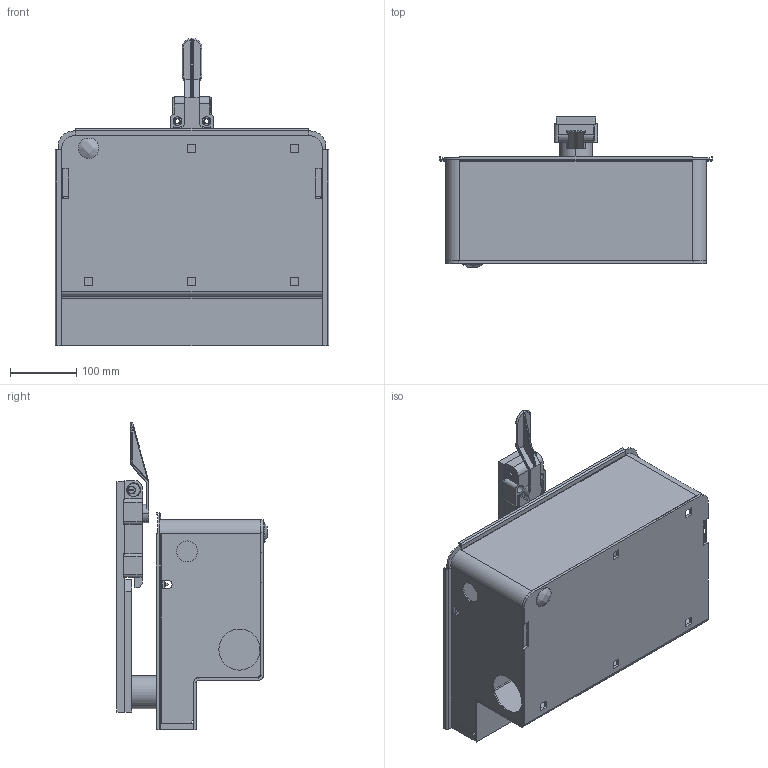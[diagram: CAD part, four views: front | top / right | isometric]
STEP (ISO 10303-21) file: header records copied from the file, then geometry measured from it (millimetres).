
FILE_DESCRIPTION (( 'STEP AP214' ), '1' );
FILE_NAME ('Twist_UG_2018-03-05.STEP', '2018-03-05T13:51:40', ( '' ), ( '' ), 'SwSTEP 2.0', 'SolidWorks 2017', '' );
FILE_SCHEMA (( 'AUTOMOTIVE_DESIGN' ));
Length unit declared in the file: millimetre
Products named in the file (15): 603A21240_Schlossschraube; Unterflurgehäuse_Deckel; Unterflurgehäuse_Aufnahme; Unterflurgehäuse_Wandblech_20140429; Unterflurgehäuse_Bodenblech_20140429; Twist_UG_2018-03-05; ZylinderTeil1_Jive; Zylinder_Jive; Toraufnahme1_Jive; Notentriegelung-Hebel_Jive; Notentriegelung-Gussteil_Jive; Notentriegelung-Grundplatte_Jive; Abdeckung; Wandverstärkung_hinten; Blechschraube_7982A26,316
Assembly tree (15 placements, depth 2):
  Twist_UG_2018-03-05
    Unterflurgehäuse_Bodenblech_20140429
    Unterflurgehäuse_Wandblech_20140429
    Unterflurgehäuse_Aufnahme
    Unterflurgehäuse_Deckel
    603A21240_Schlossschraube
    Blechschraube_7982A26,316  x2
    Wandverstärkung_hinten
    Abdeckung
    Notentriegelung-Grundplatte_Jive
    Notentriegelung-Gussteil_Jive
    Notentriegelung-Hebel_Jive
    Toraufnahme1_Jive
    Zylinder_Jive
    ZylinderTeil1_Jive
Bounding box: 413 x 226.25 x 463.88 mm (x, y, z)
Volume: 2223676.3 mm3; surface area: 1128061.6 mm2
Topology: 15 solids, 15 shells, 509 faces, 1253 edges, 783 vertices
Faces by surface type: plane 303, cylinder 157, cone 38, torus 10, bspline 1
Entity records: 15282 total; most frequent: CARTESIAN_POINT 2651, DIRECTION 2533, ORIENTED_EDGE 2394, EDGE_CURVE 1197, AXIS2_PLACEMENT_3D 858, VECTOR 817, LINE 817, VERTEX_POINT 750
